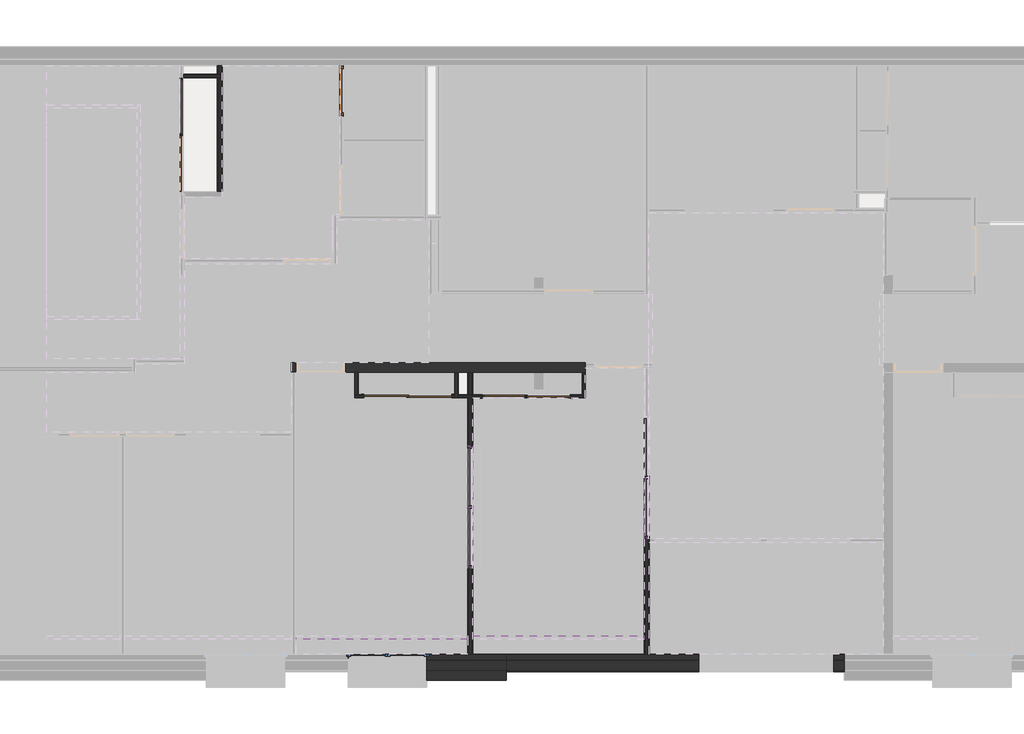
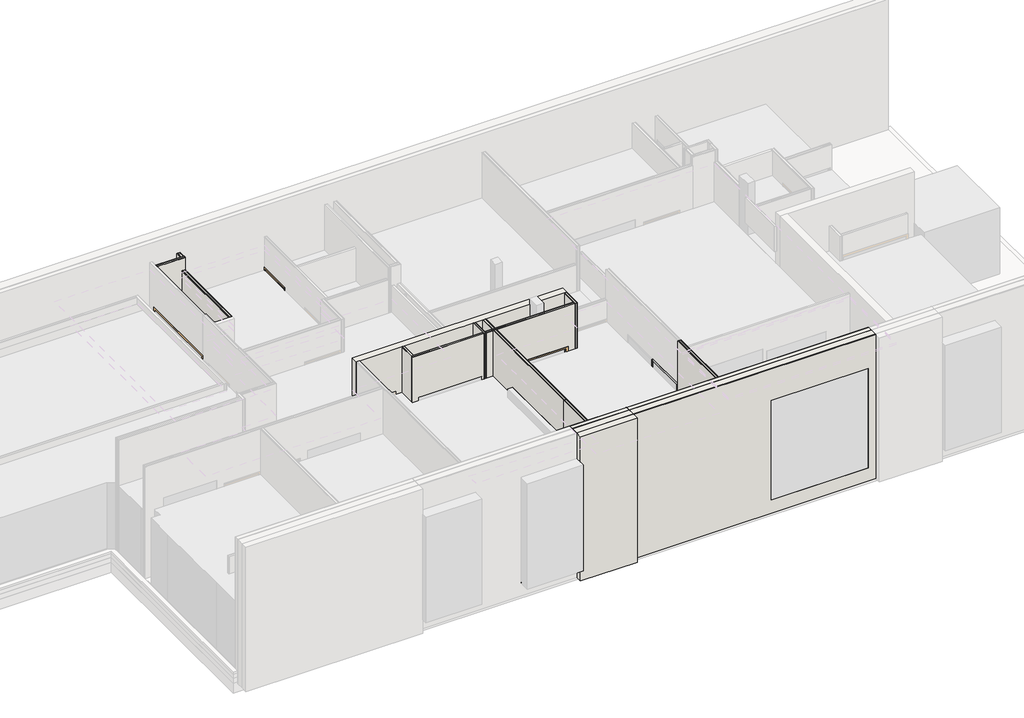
# One storey, part 3 of 8: 20 members, 18 walls, 8 plates, 4 doors, 1 window.
"""IFC4 building model written with IfcOpenShell, lengths in millimetres."""

from ifc_helpers import new_model, si_unit, frame, origin, origin_with_axes, place, context, project, spatial, polyline, outline, extrude, faceted_brep, transform, mapped, element, save
from components import door_b5ea6a65, door_14448009, door_fe86ba10, member_de099058, member_646bbe2c, member_8ddccc91, member_29740ae2, plate_de56a2f1, window_4ef66e8a

model = new_model("IFC4")

# Units and contexts
model_context = context("Model", 3, world=origin())
ifc_project = project(units=[si_unit("LENGTHUNIT", "METRE", prefix="MILLI")], contexts=[model_context])

# Site, building, storey
site = spatial("IfcSite", under=ifc_project)
building = spatial("IfcBuilding", under=site)
storey = spatial("IfcBuildingStorey", under=building, Name="0 Mairie RDC 0.00", Elevation=0.0)

# Doors
placement = place(None, origin())
door_shape = door_b5ea6a65(model_context)
element("IfcDoor", 1, ObjectType="Portes - Placard coulissante - 2 panneaux - Placard coulissante - 2 panneaux 1.80", at=placement, inside=storey, context=model_context, shape_type="MappedRepresentation", body=[
    mapped(door_shape, transform((-13728.6479915, -8682.779598, 0.0), x_axis=(-1.0, 0.0, 0.0), y_axis=(0.0, -1.0, 0.0), z_axis=(0.0, 0.0, 1.0))),
])
element("IfcDoor", 2, ObjectType="Portes - Placard coulissante - 2 panneaux - Placard coulissante - 2 panneaux 1.80", at=placement, inside=storey, context=model_context, shape_type="MappedRepresentation", body=[
    mapped(door_shape, transform((-13113.6818197, -8752.6130855, 0.0), x_axis=(1.0, 0.0, 0.0), y_axis=(0.0, 1.0, 0.0), z_axis=(0.0, 0.0, 1.0))),
])
door_2_shape = door_14448009(model_context)
element("IfcDoor", 3, ObjectType="Portes - Int. Simple - PP (0.89m x 2.04m) (3)", at=placement, inside=storey, context=model_context, shape_type="MappedRepresentation", body=[
    mapped(door_2_shape, transform((-16015.9503686, -1917.7637486, 0.0), x_axis=(0.0, -1.0, 0.0), y_axis=(1.0, 0.0, 0.0), z_axis=(0.0, 0.0, 1.0))),
])
door_3_shape = door_fe86ba10(model_context)
element("IfcDoor", 4, ObjectType="Portes - Placard coulissante - 2 panneaux - Placard coulissante - 2 panneaux 2.32", at=placement, inside=storey, context=model_context, shape_type="MappedRepresentation", body=[
    mapped(door_3_shape, transform((-19282.1823363, -2222.7637486, 0.0), x_axis=(0.0, -1.0, 0.0), y_axis=(1.0, 0.0, 0.0), z_axis=(0.0, 0.0, 1.0))),
])

# Members
member_shape = member_de099058(model_context)
element("IfcMember", 5, ObjectType="Meneaux de murs-rideaux - Meneau rectangulaire - 10 x 25mm", at=placement, inside=storey, context=model_context, shape_type="MappedRepresentation", body=[
    mapped(member_shape, transform((-9754.6455383, -10378.5833837, 1125.0), x_axis=(0.0, 1.0, 0.0), y_axis=(1.0, 0.0, 0.0), z_axis=(0.0, 0.0, -1.0))),
])
element("IfcMember", 6, ObjectType="Meneaux de murs-rideaux - Meneau rectangulaire - 10 x 25mm", at=placement, inside=storey, context=model_context, shape_type="MappedRepresentation", body=[
    mapped(member_shape, transform((-13354.255006, -10978.7649845, 1125.0), x_axis=(0.0, 1.0, 0.0), y_axis=(1.0, 0.0, 0.0), z_axis=(0.0, 0.0, -1.0))),
])
element("IfcMember", 7, ObjectType="Meneaux de murs-rideaux - Meneau rectangulaire - 10 x 25mm (1)", at=placement, inside=storey, context=model_context, shape_type="MappedRepresentation", body=[
    mapped(member_shape, transform((-9754.6455383, -10378.5833837, 50.0), x_axis=(0.0, 1.0, 0.0), y_axis=(1.0, 0.0, 0.0), z_axis=(0.0, 0.0, -1.0))),
])
element("IfcMember", 8, ObjectType="Meneaux de murs-rideaux - Meneau rectangulaire - 10 x 25mm (1)", at=placement, inside=storey, context=model_context, shape_type="MappedRepresentation", body=[
    mapped(member_shape, transform((-13354.255006, -10978.7649845, 50.0), x_axis=(0.0, 1.0, 0.0), y_axis=(1.0, 0.0, 0.0), z_axis=(0.0, 0.0, -1.0))),
])
member_2_shape = member_646bbe2c(model_context)
element("IfcMember", 9, ObjectType="Meneaux de murs-rideaux - Meneau rectangulaire - 10 x 25mm (2)", at=placement, inside=storey, context=model_context, shape_type="MappedRepresentation", body=[
    mapped(member_2_shape, transform((-13354.255006, -9728.7649845, 1125.0), x_axis=(0.0, 1.0, 0.0), y_axis=(1.0, 0.0, 0.0), z_axis=(0.0, 0.0, -1.0))),
])
element("IfcMember", 10, ObjectType="Meneaux de murs-rideaux - Meneau rectangulaire - 10 x 25mm (3)", at=placement, inside=storey, context=model_context, shape_type="MappedRepresentation", body=[
    mapped(member_2_shape, transform((-13354.255006, -9728.7649845, 50.0), x_axis=(0.0, 1.0, 0.0), y_axis=(1.0, 0.0, 0.0), z_axis=(0.0, 0.0, -1.0))),
])
element("IfcMember", 11, ObjectType="Meneaux de murs-rideaux - Meneau rectangulaire - 10 x 25mm (4)", at=placement, inside=storey, context=model_context, shape_type="MappedRepresentation", body=[
    mapped(member_2_shape, transform((-9754.6455383, -11628.5833837, 1125.0), x_axis=(0.0, -1.0, 0.0), y_axis=(1.0, 0.0, 0.0), z_axis=(0.0, 0.0, 1.0))),
])
element("IfcMember", 12, ObjectType="Meneaux de murs-rideaux - Meneau rectangulaire - 10 x 25mm (4)", at=placement, inside=storey, context=model_context, shape_type="MappedRepresentation", body=[
    mapped(member_2_shape, transform((-13354.255006, -12228.7649845, 1125.0), x_axis=(0.0, -1.0, 0.0), y_axis=(1.0, 0.0, 0.0), z_axis=(0.0, 0.0, 1.0))),
])
element("IfcMember", 13, ObjectType="Meneaux de murs-rideaux - Meneau rectangulaire - 10 x 25mm (5)", at=placement, inside=storey, context=model_context, shape_type="MappedRepresentation", body=[
    mapped(member_2_shape, transform((-9754.6455383, -11628.5833837, 2200.0), x_axis=(0.0, -1.0, 0.0), y_axis=(1.0, 0.0, 0.0), z_axis=(0.0, 0.0, 1.0))),
])
element("IfcMember", 14, ObjectType="Meneaux de murs-rideaux - Meneau rectangulaire - 10 x 25mm (5)", at=placement, inside=storey, context=model_context, shape_type="MappedRepresentation", body=[
    mapped(member_2_shape, transform((-13354.255006, -12228.7649845, 2200.0), x_axis=(0.0, -1.0, 0.0), y_axis=(1.0, 0.0, 0.0), z_axis=(0.0, 0.0, 1.0))),
])
member_3_shape = member_8ddccc91(model_context)
element("IfcMember", 15, ObjectType="Meneaux de murs-rideaux - Meneau rectangulaire - 10 x 25mm (6)", at=placement, inside=storey, context=model_context, shape_type="MappedRepresentation", body=[
    mapped(member_3_shape, transform((-9754.6455383, -10403.5833837, 1125.0), x_axis=(0.0, 0.0, 1.0), y_axis=(1.0, 0.0, 0.0), z_axis=(0.0, 1.0, 0.0))),
])
element("IfcMember", 16, ObjectType="Meneaux de murs-rideaux - Meneau rectangulaire - 10 x 25mm (6)", at=placement, inside=storey, context=model_context, shape_type="MappedRepresentation", body=[
    mapped(member_3_shape, transform((-13354.255006, -9778.7649845, 1125.0), x_axis=(0.0, 0.0, 1.0), y_axis=(1.0, 0.0, 0.0), z_axis=(0.0, 1.0, 0.0))),
])
element("IfcMember", 17, ObjectType="Meneaux de murs-rideaux - Meneau rectangulaire - 10 x 25mm (6)", at=placement, inside=storey, context=model_context, shape_type="MappedRepresentation", body=[
    mapped(member_3_shape, transform((-13354.255006, -11003.7649845, 1125.0), x_axis=(0.0, 0.0, 1.0), y_axis=(1.0, 0.0, 0.0), z_axis=(0.0, 1.0, 0.0))),
])
member_4_shape = member_29740ae2(model_context)
element("IfcMember", 18, ObjectType="Meneaux de murs-rideaux - Meneau rectangulaire - 10 x 25mm (7)", at=placement, inside=storey, context=model_context, shape_type="MappedRepresentation", body=[
    mapped(member_4_shape, transform((-9754.6455383, -10378.5833837, 0.0), x_axis=(0.0, 0.0, -1.0), y_axis=(1.0, 0.0, 0.0), z_axis=(0.0, -1.0, 0.0))),
])
element("IfcMember", 19, ObjectType="Meneaux de murs-rideaux - Meneau rectangulaire - 10 x 25mm (7)", at=placement, inside=storey, context=model_context, shape_type="MappedRepresentation", body=[
    mapped(member_4_shape, transform((-13354.255006, -10978.7649845, 0.0), x_axis=(0.0, 0.0, -1.0), y_axis=(1.0, 0.0, 0.0), z_axis=(0.0, -1.0, 0.0))),
])
element("IfcMember", 20, ObjectType="Meneaux de murs-rideaux - Meneau rectangulaire - 10 x 25mm (8)", at=placement, inside=storey, context=model_context, shape_type="MappedRepresentation", body=[
    mapped(member_4_shape, transform((-9754.6455383, -11628.5833837, 0.0), x_axis=(0.0, 0.0, -1.0), y_axis=(1.0, 0.0, 0.0), z_axis=(0.0, -1.0, 0.0))),
])
element("IfcMember", 21, ObjectType="Meneaux de murs-rideaux - Meneau rectangulaire - 10 x 25mm (8)", at=placement, inside=storey, context=model_context, shape_type="MappedRepresentation", body=[
    mapped(member_4_shape, transform((-13354.255006, -12228.7649845, 0.0), x_axis=(0.0, 0.0, -1.0), y_axis=(1.0, 0.0, 0.0), z_axis=(0.0, -1.0, 0.0))),
])
element("IfcMember", 22, ObjectType="Meneaux de murs-rideaux - Meneau rectangulaire - 10 x 25mm (9)", at=placement, inside=storey, context=model_context, shape_type="MappedRepresentation", body=[
    mapped(member_4_shape, transform((-9754.6455383, -10378.5833837, 2250.0), x_axis=(0.0, 0.0, 1.0), y_axis=(1.0, 0.0, 0.0), z_axis=(0.0, 1.0, 0.0))),
])
element("IfcMember", 23, ObjectType="Meneaux de murs-rideaux - Meneau rectangulaire - 10 x 25mm (9)", at=placement, inside=storey, context=model_context, shape_type="MappedRepresentation", body=[
    mapped(member_4_shape, transform((-13354.255006, -10978.7649845, 2250.0), x_axis=(0.0, 0.0, 1.0), y_axis=(1.0, 0.0, 0.0), z_axis=(0.0, 1.0, 0.0))),
])
element("IfcMember", 24, ObjectType="Meneaux de murs-rideaux - Meneau rectangulaire - 10 x 25mm (10)", at=placement, inside=storey, context=model_context, shape_type="MappedRepresentation", body=[
    mapped(member_4_shape, transform((-13354.255006, -9728.7649845, 2250.0), x_axis=(0.0, 0.0, 1.0), y_axis=(1.0, 0.0, 0.0), z_axis=(0.0, 1.0, 0.0))),
])

# Plates
plate_shape = plate_de56a2f1(model_context)
element("IfcPlate", 25, ObjectType="Panneaux de murs-rideaux - Panneau système - Vitré", at=placement, inside=storey, context=model_context, shape_type="MappedRepresentation", body=[
    mapped(plate_shape, transform((-9759.6455383, -11578.5833837, 50.0), x_axis=(0.0, 1.0, 0.0), y_axis=(-1.0, 0.0, 0.0), z_axis=(0.0, 0.0, 1.0))),
])
element("IfcPlate", 26, ObjectType="Panneaux de murs-rideaux - Panneau système - Vitré", at=placement, inside=storey, context=model_context, shape_type="MappedRepresentation", body=[
    mapped(plate_shape, transform((-9759.6455383, -10353.5833837, 50.0), x_axis=(0.0, 1.0, 0.0), y_axis=(-1.0, 0.0, 0.0), z_axis=(0.0, 0.0, 1.0))),
])
element("IfcPlate", 27, ObjectType="Panneaux de murs-rideaux - Panneau système - Vitré", at=placement, inside=storey, context=model_context, shape_type="MappedRepresentation", body=[
    mapped(plate_shape, transform((-9759.6455383, -11578.5833837, 1150.0), x_axis=(0.0, 1.0, 0.0), y_axis=(-1.0, 0.0, 0.0), z_axis=(0.0, 0.0, 1.0))),
])
element("IfcPlate", 28, ObjectType="Panneaux de murs-rideaux - Panneau système - Vitré", at=placement, inside=storey, context=model_context, shape_type="MappedRepresentation", body=[
    mapped(plate_shape, transform((-9759.6455383, -10353.5833837, 1150.0), x_axis=(0.0, 1.0, 0.0), y_axis=(-1.0, 0.0, 0.0), z_axis=(0.0, 0.0, 1.0))),
])
element("IfcPlate", 29, ObjectType="Panneaux de murs-rideaux - Panneau système - Vitré", at=placement, inside=storey, context=model_context, shape_type="MappedRepresentation", body=[
    mapped(plate_shape, transform((-13359.255006, -12178.7649845, 50.0), x_axis=(0.0, 1.0, 0.0), y_axis=(-1.0, 0.0, 0.0), z_axis=(0.0, 0.0, 1.0))),
])
element("IfcPlate", 30, ObjectType="Panneaux de murs-rideaux - Panneau système - Vitré", at=placement, inside=storey, context=model_context, shape_type="MappedRepresentation", body=[
    mapped(plate_shape, transform((-13359.255006, -10953.7649845, 50.0), x_axis=(0.0, 1.0, 0.0), y_axis=(-1.0, 0.0, 0.0), z_axis=(0.0, 0.0, 1.0))),
])
element("IfcPlate", 31, ObjectType="Panneaux de murs-rideaux - Panneau système - Vitré", at=placement, inside=storey, context=model_context, shape_type="MappedRepresentation", body=[
    mapped(plate_shape, transform((-13359.255006, -12178.7649845, 1150.0), x_axis=(0.0, 1.0, 0.0), y_axis=(-1.0, 0.0, 0.0), z_axis=(0.0, 0.0, 1.0))),
])
element("IfcPlate", 32, ObjectType="Panneaux de murs-rideaux - Panneau système - Vitré", at=placement, inside=storey, context=model_context, shape_type="MappedRepresentation", body=[
    mapped(plate_shape, transform((-13359.255006, -10953.7649845, 1150.0), x_axis=(0.0, 1.0, 0.0), y_axis=(-1.0, 0.0, 0.0), z_axis=(0.0, 0.0, 1.0))),
])

# Walls
element("IfcWall", 33, ObjectType="Murs - Mur de base - A cloison placostil 98 sèche", at=placement, inside=storey, context=model_context, shape_type="SweptSolid", body=[
    extrude(outline(polyline([(-9804.6455383, -13978.5662223), (-9804.6455383, -11628.5833837), (-9792.1455383, -11628.5833837), (-9792.1455383, -13978.5662223), (-9804.6455383, -13978.5662223)])), origin_with_axes(), (0.0, 0.0, 1.0), 3540.0),
    extrude(outline(polyline([(-9792.1455383, -13978.5662223), (-9792.1455383, -11628.5833837), (-9779.6455383, -11628.5833837), (-9779.6455383, -13978.5662223), (-9792.1455383, -13978.5662223)])), origin_with_axes(), (0.0, 0.0, 1.0), 3540.0),
    extrude(outline(polyline([(-9779.6455383, -13978.5662223), (-9779.6455383, -11628.5833837), (-9729.6455383, -11628.5833837), (-9729.6455383, -13978.5662223), (-9779.6455383, -13978.5662223)])), origin_with_axes(), (0.0, 0.0, 1.0), 3540.0),
    extrude(outline(polyline([(-9729.6455383, -13978.5662223), (-9729.6455383, -11628.5833837), (-9717.1455383, -11628.5833837), (-9717.1455383, -13978.5662223), (-9729.6455383, -13978.5662223)])), origin_with_axes(), (0.0, 0.0, 1.0), 3540.0),
    extrude(outline(polyline([(-9717.1455383, -13978.5662223), (-9717.1455383, -11628.5833837), (-9704.6455383, -11628.5833837), (-9704.6455383, -13978.5662223), (-9717.1455383, -13978.5662223)])), origin_with_axes(), (0.0, 0.0, 1.0), 3540.0),
])
element("IfcWall", 34, ObjectType="Murs - Mur de base - A cloison placostil 72 sèche", at=placement, inside=storey, context=model_context, shape_type="SweptSolid", body=[
    extrude(outline(polyline([(-11073.1086334, -8752.6130855), (-11073.1086334, -8232.7637435), (-11063.1086334, -8232.7637435), (-11063.1086334, -8752.6130855), (-11073.1086334, -8752.6130855)])), origin_with_axes(), (0.0, 0.0, 1.0), 3370.0),
    extrude(outline(polyline([(-11063.1086334, -8752.6130855), (-11063.1086334, -8232.7637435), (-11013.1086334, -8232.7637435), (-11013.1086334, -8752.6130855), (-11063.1086334, -8752.6130855)])), origin_with_axes(), (0.0, 0.0, 1.0), 3370.0),
    extrude(outline(polyline([(-11013.1086334, -8752.6130855), (-11013.1086334, -8232.7637435), (-11003.1086334, -8232.7637435), (-11003.1086334, -8752.6130855), (-11013.1086334, -8752.6130855)])), origin_with_axes(), (0.0, 0.0, 1.0), 3370.0),
])
element("IfcWall", 35, ObjectType="Murs - Mur de base - A cloison placostil 72 sèche", at=placement, inside=storey, context=model_context, shape_type="SweptSolid", body=[
    extrude(outline(polyline([(3370.0, -11073.1086334), (3370.0, -13304.255006), (0.0, -13304.255006), (0.0, -13113.6818197), (2100.0, -13113.6818197), (2100.0, -11313.6818197), (0.0, -11313.6818197), (0.0, -11073.1086334), (3370.0, -11073.1086334)])), frame((0.0, -8692.6130855, 0.0), z_axis=(0.0, 1.0, 0.0), x_axis=(0.0, 0.0, 1.0)), (0.0, 0.0, 1.0), 10.0),
    extrude(outline(polyline([(3370.0, -11073.1086334), (3370.0, -13304.255006), (0.0, -13304.255006), (0.0, -13113.6818197), (2100.0, -13113.6818197), (2100.0, -11313.6818197), (0.0, -11313.6818197), (0.0, -11073.1086334), (3370.0, -11073.1086334)])), frame((0.0, -8742.6130855, 0.0), z_axis=(0.0, 1.0, 0.0), x_axis=(0.0, 0.0, 1.0)), (0.0, 0.0, 1.0), 50.0),
    extrude(outline(polyline([(3370.0, -11073.1086334), (3370.0, -13304.255006), (0.0, -13304.255006), (0.0, -13113.6818197), (2100.0, -13113.6818197), (2100.0, -11313.6818197), (0.0, -11313.6818197), (0.0, -11073.1086334), (3370.0, -11073.1086334)])), frame((0.0, -8752.6130855, 0.0), z_axis=(0.0, 1.0, 0.0), x_axis=(0.0, 0.0, 1.0)), (0.0, 0.0, 1.0), 10.0),
])
element("IfcWall", 36, ObjectType="Murs - Mur de base - A Enduit 2 + Béton 20 + vide 1 +  Doublage 13", at=placement, inside=storey, context=model_context, shape_type="SweptSolid", body=[
    extrude(outline(polyline([(3950.0, -5718.4606208), (3950.0, -12618.5500393), (-400.0, -12618.5500393), (-400.0, -5718.4606208), (3950.0, -5718.4606208)]), holes=[polyline([(3000.0, -5934.6455383), (0.0, -5934.6455383), (0.0, -8694.6455383), (3000.0, -8694.6455383), (3000.0, -5934.6455383)])]), frame((0.0, -14338.5662223, 0.0), z_axis=(0.0, 1.0, 0.0), x_axis=(0.0, 0.0, 1.0)), (0.0, 0.0, 1.0), 20.0),
    extrude(outline(polyline([(3950.0, -5718.4606208), (3950.0, -12618.5500393), (-400.0, -12618.5500393), (-400.0, -5718.4606208), (3950.0, -5718.4606208)]), holes=[polyline([(3000.0, -5934.6455383), (0.0, -5934.6455383), (0.0, -8694.6455383), (3000.0, -8694.6455383), (3000.0, -5934.6455383)])]), frame((0.0, -14318.5662223, 0.0), z_axis=(0.0, 1.0, 0.0), x_axis=(0.0, 0.0, 1.0)), (0.0, 0.0, 1.0), 200.0),
    extrude(outline(polyline([(3950.0, -5718.4606208), (3950.0, -12618.5500393), (-400.0, -12618.5500393), (-400.0, -5718.4606208), (3950.0, -5718.4606208)]), holes=[polyline([(3000.0, -5934.6455383), (0.0, -5934.6455383), (0.0, -8694.6455383), (3000.0, -8694.6455383), (3000.0, -5934.6455383)])]), frame((0.0, -14118.5662223, 0.0), z_axis=(0.0, 1.0, 0.0), x_axis=(0.0, 0.0, 1.0)), (0.0, 0.0, 1.0), 10.0),
    extrude(outline(polyline([(3950.0, -5718.4606208), (3950.0, -12618.5500393), (-400.0, -12618.5500393), (-400.0, -5718.4606208), (3950.0, -5718.4606208)]), holes=[polyline([(3000.0, -5934.6455383), (0.0, -5934.6455383), (0.0, -8694.6455383), (3000.0, -8694.6455383), (3000.0, -5934.6455383)])]), frame((0.0, -14108.5662223, 0.0), z_axis=(0.0, 1.0, 0.0), x_axis=(0.0, 0.0, 1.0)), (0.0, 0.0, 1.0), 120.0),
    extrude(outline(polyline([(3950.0, -5718.4606208), (3950.0, -12618.5500393), (-400.0, -12618.5500393), (-400.0, -5718.4606208), (3950.0, -5718.4606208)]), holes=[polyline([(3000.0, -5934.6455383), (0.0, -5934.6455383), (0.0, -8694.6455383), (3000.0, -8694.6455383), (3000.0, -5934.6455383)])]), frame((0.0, -13988.5662223, 0.0), z_axis=(0.0, 1.0, 0.0), x_axis=(0.0, 0.0, 1.0)), (0.0, 0.0, 1.0), 10.0),
])
element("IfcWall", 37, ObjectType="Murs - Mur de base - A Ext. Voile BA 20", at=placement, inside=storey, context=model_context, shape_type="SweptSolid", body=[
    extrude(outline(polyline([(3370.0, -11003.1086334), (3370.0, -17005.446161), (-180.0, -17005.446161), (-180.0, -11003.1086334), (3370.0, -11003.1086334)]), holes=[polyline([(2075.0, -15905.446161), (0.0, -15905.446161), (0.0, -16905.446161), (2075.0, -16905.446161), (2075.0, -15905.446161)])]), frame((0.0, -8232.7637435, 0.0), z_axis=(0.0, 1.0, 0.0), x_axis=(0.0, 0.0, 1.0)), (0.0, 0.0, 1.0), 200.0),
])
element("IfcWall", 38, ObjectType="Murs - Mur de base - A Parement pierre 19 + Béton 20 + vide 1 +   Doublage 14", at=placement, inside=storey, context=model_context, shape_type="SolidModel", body=[
    faceted_brep([(-14238.6355893, -14508.5662223, 3950.0), (-12618.5500393, -14508.5662223, 3950.0), (-12618.5500393, -14318.5662223, 3950.0), (-14238.6355893, -14318.5662223, 3950.0), (-14238.6355893, -14508.5662223, -400.0), (-14238.6355893, -14318.5662223, -400.0), (-12618.5500393, -14318.5662223, -400.0), (-12618.5500393, -14508.5662223, -400.0), (-14238.6355893, -14508.5662223, 3185.0), (-14238.6355893, -14508.5662223, 0.0), (-14238.6355893, -14318.5662223, 7.6728988), (-14238.6355893, -14318.5662223, 3185.0)], [[[0, 1, 2, 3]], [[4, 5, 6, 7]], [[1, 0, 8, 9, 4, 7]], [[2, 1, 7, 6]], [[3, 2, 6, 5, 10, 11]], [[0, 3, 11, 10, 5, 4, 9, 8]]]),
    faceted_brep([(-14238.6355893, -14318.5662223, 3950.0), (-12618.5500393, -14318.5662223, 3950.0), (-12618.5500393, -14118.5662223, 3950.0), (-14238.6355893, -14118.5662223, 3950.0), (-14238.6355893, -14318.5662223, -400.0), (-14238.6355893, -14118.5662223, -400.0), (-12618.5500393, -14118.5662223, -400.0), (-12618.5500393, -14318.5662223, -400.0), (-14238.6355893, -14318.5662223, 3185.0), (-14238.6355893, -14318.5662223, 7.6728988), (-14238.6355893, -14118.5662223, 28.6937459), (-14238.6355893, -14118.5662223, 3185.0)], [[[0, 1, 2, 3]], [[4, 5, 6, 7]], [[1, 0, 8, 9, 4, 7]], [[2, 1, 7, 6]], [[3, 2, 6, 5, 10, 11]], [[0, 3, 11, 10, 5, 4, 9, 8]]]),
    faceted_brep([(-14238.6355893, -14118.5662223, 3950.0), (-12618.5500393, -14118.5662223, 3950.0), (-12618.5500393, -14108.5662223, 3950.0), (-14238.6355893, -14108.5662223, 3950.0), (-14238.6355893, -14118.5662223, -400.0), (-14238.6355893, -14108.5662223, -400.0), (-12618.5500393, -14108.5662223, -400.0), (-12618.5500393, -14118.5662223, -400.0), (-14238.6355893, -14118.5662223, 3185.0), (-14238.6355893, -14118.5662223, 28.6937459), (-14238.6355893, -14108.5662223, 29.7447882), (-14238.6355893, -14108.5662223, 3185.0)], [[[0, 1, 2, 3]], [[4, 5, 6, 7]], [[1, 0, 8, 9, 4, 7]], [[2, 1, 7, 6]], [[3, 2, 6, 5, 10, 11]], [[0, 3, 11, 10, 5, 4, 9, 8]]]),
    faceted_brep([(-14238.6355893, -14108.5662223, 3950.0), (-12618.5500393, -14108.5662223, 3950.0), (-12618.5500393, -13988.5662223, 3950.0), (-14238.6355893, -13988.5662223, 3950.0), (-14238.6355893, -14108.5662223, -400.0), (-14238.6355893, -13988.5662223, -400.0), (-12618.5500393, -13988.5662223, -400.0), (-12618.5500393, -14108.5662223, -400.0), (-14238.6355893, -14108.5662223, 3185.0), (-14238.6355893, -14108.5662223, 29.7447882), (-14238.6355893, -13988.5662223, 35.0), (-14188.6355893, -13988.5662223, 35.0), (-14188.6355893, -13988.5662223, 3235.0), (-14238.6355893, -13988.5662223, 3235.0), (-14238.6355893, -14028.5662223, 3235.0), (-14238.6355893, -14028.5662223, 3195.0), (-14238.6355893, -14078.5662223, 3195.0), (-14238.6355893, -14078.5662223, 3185.0), (-14238.6355893, -14078.5662223, 35.0), (-14238.6355893, -14058.5662223, 35.0), (-14228.6355893, -14028.5662223, 35.0), (-14188.6355893, -14028.5662223, 35.0), (-14228.6355893, -14078.5662223, 35.0), (-14188.6355893, -14028.5662223, 3235.0), (-14228.6355893, -14028.5662223, 3195.0), (-14228.6355893, -14078.5662223, 3195.0)], [[[0, 1, 2, 3]], [[4, 5, 6, 7]], [[1, 0, 8, 9, 4, 7]], [[2, 1, 7, 6]], [[3, 2, 6, 5, 10, 11, 12, 13]], [[0, 3, 13, 14, 15, 16, 17, 18, 19, 10, 5, 4, 9, 8]], [[20, 21, 11, 10, 19, 18, 22]], [[21, 23, 12, 11]], [[21, 20, 24, 15, 14, 23]], [[20, 22, 25, 24]], [[22, 18, 17, 16, 25]], [[12, 23, 14, 13]], [[24, 25, 16, 15]]]),
    extrude(outline(polyline([(3950.0, -12618.5500393), (3950.0, -14238.6355893), (3235.0, -14238.6355893), (3235.0, -14188.6355893), (35.0, -14188.6355893), (35.0, -14238.6355893), (-400.0, -14238.6355893), (-400.0, -12618.5500393), (3950.0, -12618.5500393)])), frame((0.0, -13988.5662223, 0.0), z_axis=(0.0, 1.0, 0.0), x_axis=(0.0, 0.0, 1.0)), (0.0, 0.0, 1.0), 10.0),
])
element("IfcWall", 39, ObjectType="Murs - Mur de base - A cloison placostil 98 sèche", at=placement, inside=storey, context=model_context, shape_type="Brep", body=[
    faceted_brep([(-13404.255006, -12228.7534329, 3370.0), (-13391.755006, -12228.7534329, 3370.0), (-13391.755006, -8752.7765879, 3370.0), (-13404.255006, -8752.7765879, 3370.0), (-13404.255006, -8752.7765879, 0.0), (-13391.755006, -8752.7765879, 0.0), (-13391.755006, -9728.7649845, 0.0), (-13404.255006, -9728.7649845, 0.0), (-13404.255006, -12228.7534329, 2250.0), (-13391.755006, -12228.7534329, 2250.0), (-13391.755006, -9728.7649845, 2250.0), (-13391.755006, -9728.7649845, 2080.0), (-13404.255006, -9728.7649845, 2080.0), (-13404.255006, -9728.7649845, 2250.0)], [[[0, 1, 2, 3]], [[4, 5, 6, 7]], [[1, 0, 8, 9]], [[2, 1, 9, 10, 11, 6, 5]], [[3, 2, 5, 4]], [[0, 3, 4, 7, 12, 13, 8]], [[9, 8, 13, 10]], [[7, 6, 11, 10, 13, 12]]]),
    faceted_brep([(-13391.755006, -12228.7534329, 3370.0), (-13379.255006, -12228.7534329, 3370.0), (-13379.255006, -8752.7765879, 3370.0), (-13391.755006, -8752.7765879, 3370.0), (-13391.755006, -8752.7765879, 0.0), (-13379.255006, -8752.7765879, 0.0), (-13379.255006, -9728.7649845, 0.0), (-13391.755006, -9728.7649845, 0.0), (-13391.755006, -12228.7534329, 2250.0), (-13379.255006, -12228.7534329, 2250.0), (-13379.255006, -9728.7649845, 2250.0), (-13379.255006, -9728.7649845, 2080.0), (-13391.755006, -9728.7649845, 2080.0), (-13391.755006, -9728.7649845, 2250.0)], [[[0, 1, 2, 3]], [[4, 5, 6, 7]], [[1, 0, 8, 9]], [[2, 1, 9, 10, 11, 6, 5]], [[3, 2, 5, 4]], [[0, 3, 4, 7, 12, 13, 8]], [[9, 8, 13, 10]], [[7, 6, 11, 10, 13, 12]]]),
    faceted_brep([(-13379.255006, -12228.7534329, 3370.0), (-13329.255006, -12228.7534329, 3370.0), (-13329.255006, -8752.7765879, 3370.0), (-13379.255006, -8752.7765879, 3370.0), (-13379.255006, -8752.7765879, 0.0), (-13329.255006, -8752.7765879, 0.0), (-13329.255006, -9728.7649845, 0.0), (-13379.255006, -9728.7649845, 0.0), (-13379.255006, -12228.7534329, 2250.0), (-13329.255006, -12228.7534329, 2250.0), (-13329.255006, -9728.7649845, 2250.0), (-13329.255006, -9728.7649845, 2080.0), (-13379.255006, -9728.7649845, 2080.0), (-13379.255006, -9728.7649845, 2250.0)], [[[0, 1, 2, 3]], [[4, 5, 6, 7]], [[1, 0, 8, 9]], [[2, 1, 9, 10, 11, 6, 5]], [[3, 2, 5, 4]], [[0, 3, 4, 7, 12, 13, 8]], [[9, 8, 13, 10]], [[7, 6, 11, 10, 13, 12]]]),
    faceted_brep([(-13329.255006, -12228.7534329, 3370.0), (-13316.755006, -12228.7534329, 3370.0), (-13316.755006, -8752.7765879, 3370.0), (-13329.255006, -8752.7765879, 3370.0), (-13329.255006, -8752.7765879, 0.0), (-13316.755006, -8752.7765879, 0.0), (-13316.755006, -9728.7649845, 0.0), (-13329.255006, -9728.7649845, 0.0), (-13329.255006, -12228.7534329, 2250.0), (-13316.755006, -12228.7534329, 2250.0), (-13316.755006, -9728.7649845, 2250.0), (-13316.755006, -9728.7649845, 2080.0), (-13329.255006, -9728.7649845, 2080.0), (-13329.255006, -9728.7649845, 2250.0)], [[[0, 1, 2, 3]], [[4, 5, 6, 7]], [[1, 0, 8, 9]], [[2, 1, 9, 10, 11, 6, 5]], [[3, 2, 5, 4]], [[0, 3, 4, 7, 12, 13, 8]], [[9, 8, 13, 10]], [[7, 6, 11, 10, 13, 12]]]),
    faceted_brep([(-13316.755006, -12228.7534329, 3370.0), (-13304.255006, -12228.7534329, 3370.0), (-13304.255006, -8752.7765879, 3370.0), (-13316.755006, -8752.7765879, 3370.0), (-13316.755006, -8752.7765879, 0.0), (-13304.255006, -8752.7765879, 0.0), (-13304.255006, -9728.7649845, 0.0), (-13316.755006, -9728.7649845, 0.0), (-13316.755006, -12228.7534329, 2250.0), (-13304.255006, -12228.7534329, 2250.0), (-13304.255006, -9728.7649845, 2250.0), (-13304.255006, -9728.7649845, 2080.0), (-13316.755006, -9728.7649845, 2080.0), (-13316.755006, -9728.7649845, 2250.0)], [[[0, 1, 2, 3]], [[4, 5, 6, 7]], [[1, 0, 8, 9]], [[2, 1, 9, 10, 11, 6, 5]], [[3, 2, 5, 4]], [[0, 3, 4, 7, 12, 13, 8]], [[9, 8, 13, 10]], [[7, 6, 11, 10, 13, 12]]]),
])
element("IfcWall", 40, ObjectType="Murs - Mur de base - A cloison placostil 98 sèche", at=placement, inside=storey, context=model_context, shape_type="SweptSolid", body=[
    extrude(outline(polyline([(-13404.255006, -13978.5662223), (-13404.255006, -12228.7534329), (-13391.755006, -12228.7534329), (-13391.755006, -13978.5662223), (-13404.255006, -13978.5662223)])), origin_with_axes(), (0.0, 0.0, 1.0), 3370.0),
    extrude(outline(polyline([(-13391.755006, -13978.5662223), (-13391.755006, -12228.7534329), (-13379.255006, -12228.7534329), (-13379.255006, -13978.5662223), (-13391.755006, -13978.5662223)])), origin_with_axes(), (0.0, 0.0, 1.0), 3370.0),
    extrude(outline(polyline([(-13379.255006, -13978.5662223), (-13379.255006, -12228.7534329), (-13329.255006, -12228.7534329), (-13329.255006, -13978.5662223), (-13379.255006, -13978.5662223)])), origin_with_axes(), (0.0, 0.0, 1.0), 3370.0),
    extrude(outline(polyline([(-13329.255006, -13978.5662223), (-13329.255006, -12228.7534329), (-13316.755006, -12228.7534329), (-13316.755006, -13978.5662223), (-13329.255006, -13978.5662223)])), origin_with_axes(), (0.0, 0.0, 1.0), 3370.0),
    extrude(outline(polyline([(-13316.755006, -13978.5662223), (-13316.755006, -12228.7534329), (-13304.255006, -12228.7534329), (-13304.255006, -13978.5662223), (-13316.755006, -13978.5662223)])), origin_with_axes(), (0.0, 0.0, 1.0), 3370.0),
])
element("IfcWall", 41, ObjectType="Murs - Mur de base - A cloison placostil 72 sèche", at=placement, inside=storey, context=model_context, shape_type="SweptSolid", body=[
    extrude(outline(polyline([(3370.0, -13671.849822), (3370.0, -15705.446161), (0.0, -15705.446161), (0.0, -15528.6479915), (2100.0, -15528.6479915), (2100.0, -13728.6479915), (0.0, -13728.6479915), (0.0, -13671.849822), (3370.0, -13671.849822)])), frame((0.0, -8692.779598, 0.0), z_axis=(0.0, 1.0, 0.0), x_axis=(0.0, 0.0, 1.0)), (0.0, 0.0, 1.0), 10.0),
    extrude(outline(polyline([(3370.0, -13671.849822), (3370.0, -15705.446161), (0.0, -15705.446161), (0.0, -15528.6479915), (2100.0, -15528.6479915), (2100.0, -13728.6479915), (0.0, -13728.6479915), (0.0, -13671.849822), (3370.0, -13671.849822)])), frame((0.0, -8742.779598, 0.0), z_axis=(0.0, 1.0, 0.0), x_axis=(0.0, 0.0, 1.0)), (0.0, 0.0, 1.0), 50.0),
    extrude(outline(polyline([(3370.0, -13671.849822), (3370.0, -15705.446161), (0.0, -15705.446161), (0.0, -15528.6479915), (2100.0, -15528.6479915), (2100.0, -13728.6479915), (0.0, -13728.6479915), (0.0, -13671.849822), (3370.0, -13671.849822)])), frame((0.0, -8752.779598, 0.0), z_axis=(0.0, 1.0, 0.0), x_axis=(0.0, 0.0, 1.0)), (0.0, 0.0, 1.0), 10.0),
])
element("IfcWall", 42, ObjectType="Murs - Mur de base - A cloison placostil 72 sèche", at=placement, inside=storey, context=model_context, shape_type="SweptSolid", body=[
    extrude(outline(polyline([(-15635.446161, -8232.7637435), (-15635.446161, -8682.779598), (-15645.446161, -8682.779598), (-15645.446161, -8232.7637435), (-15635.446161, -8232.7637435)])), origin_with_axes(), (0.0, 0.0, 1.0), 3370.0),
    extrude(outline(polyline([(-15645.446161, -8232.7637435), (-15645.446161, -8682.779598), (-15695.446161, -8682.779598), (-15695.446161, -8232.7637435), (-15645.446161, -8232.7637435)])), origin_with_axes(), (0.0, 0.0, 1.0), 3370.0),
    extrude(outline(polyline([(-15695.446161, -8232.7637435), (-15695.446161, -8682.779598), (-15705.446161, -8682.779598), (-15705.446161, -8232.7637435), (-15695.446161, -8232.7637435)])), origin_with_axes(), (0.0, 0.0, 1.0), 3370.0),
])
element("IfcWall", 43, ObjectType="Murs - Mur de base - A cloison placostil 72 sèche", at=placement, inside=storey, context=model_context, shape_type="SweptSolid", body=[
    extrude(outline(polyline([(-18412.1823363, -2152.7637486), (-18412.1823363, -2162.7637486), (-19212.1823363, -2162.7637486), (-19212.1823363, -2152.7637486), (-18412.1823363, -2152.7637486)])), origin_with_axes(), (0.0, 0.0, 1.0), 3370.0),
    extrude(outline(polyline([(-18412.1823363, -2162.7637486), (-18412.1823363, -2212.7637486), (-19212.1823363, -2212.7637486), (-19212.1823363, -2162.7637486), (-18412.1823363, -2162.7637486)])), origin_with_axes(), (0.0, 0.0, 1.0), 3370.0),
    extrude(outline(polyline([(-18412.1823363, -2212.7637486), (-18412.1823363, -2222.7637486), (-19212.1823363, -2222.7637486), (-19212.1823363, -2212.7637486), (-18412.1823363, -2212.7637486)])), origin_with_axes(), (0.0, 0.0, 1.0), 3370.0),
])
element("IfcWall", 44, ObjectType="Murs - Mur de base - A cloison placostil 72 sèche", at=placement, inside=storey, context=model_context, shape_type="SweptSolid", body=[
    extrude(outline(polyline([(-13601.849822, -8232.7637435), (-13601.849822, -8752.7765879), (-13611.849822, -8752.7765879), (-13611.849822, -8232.7637435), (-13601.849822, -8232.7637435)])), origin_with_axes(), (0.0, 0.0, 1.0), 3370.0),
    extrude(outline(polyline([(-13611.849822, -8232.7637435), (-13611.849822, -8752.7765879), (-13661.849822, -8752.7765879), (-13661.849822, -8232.7637435), (-13611.849822, -8232.7637435)])), origin_with_axes(), (0.0, 0.0, 1.0), 3370.0),
    extrude(outline(polyline([(-13661.849822, -8232.7637435), (-13661.849822, -8752.7765879), (-13671.849822, -8752.7765879), (-13671.849822, -8232.7637435), (-13661.849822, -8232.7637435)])), origin_with_axes(), (0.0, 0.0, 1.0), 3370.0),
])
element("IfcWall", 45, ObjectType="Murs - Mur de base - A cloison placostil 72 sèche", at=placement, inside=storey, context=model_context, shape_type="SweptSolid", body=[
    extrude(outline(polyline([(-13601.849822, -8682.7765879), (-13304.255006, -8682.7765879), (-13304.255006, -8692.7765879), (-13601.849822, -8692.7765879), (-13601.849822, -8682.7765879)])), origin_with_axes(), (0.0, 0.0, 1.0), 3370.0),
    extrude(outline(polyline([(-13601.849822, -8692.7765879), (-13304.255006, -8692.7765879), (-13304.255006, -8742.7765879), (-13601.849822, -8742.7765879), (-13601.849822, -8692.7765879)])), origin_with_axes(), (0.0, 0.0, 1.0), 3370.0),
    extrude(outline(polyline([(-13601.849822, -8742.7765879), (-13304.255006, -8742.7765879), (-13304.255006, -8752.7765879), (-13601.849822, -8752.7765879), (-13601.849822, -8742.7765879)])), origin_with_axes(), (0.0, 0.0, 1.0), 3370.0),
])
element("IfcWall", 46, ObjectType="Murs - Mur de base - A cloison placostil 98 sèche", at=placement, inside=storey, context=model_context, shape_type="SweptSolid", body=[
    extrude(outline(polyline([(-13404.255006, -8232.7637435), (-13391.755006, -8232.7637435), (-13391.755006, -8682.7765879), (-13404.255006, -8682.7765879), (-13404.255006, -8232.7637435)])), origin_with_axes(), (0.0, 0.0, 1.0), 3370.0),
    extrude(outline(polyline([(-13391.755006, -8232.7637435), (-13379.255006, -8232.7637435), (-13379.255006, -8682.7765879), (-13391.755006, -8682.7765879), (-13391.755006, -8232.7637435)])), origin_with_axes(), (0.0, 0.0, 1.0), 3370.0),
    extrude(outline(polyline([(-13379.255006, -8232.7637435), (-13329.255006, -8232.7637435), (-13329.255006, -8682.7765879), (-13379.255006, -8682.7765879), (-13379.255006, -8232.7637435)])), origin_with_axes(), (0.0, 0.0, 1.0), 3370.0),
    extrude(outline(polyline([(-13329.255006, -8232.7637435), (-13316.755006, -8232.7637435), (-13316.755006, -8682.7765879), (-13329.255006, -8682.7765879), (-13329.255006, -8232.7637435)])), origin_with_axes(), (0.0, 0.0, 1.0), 3370.0),
    extrude(outline(polyline([(-13316.755006, -8232.7637435), (-13304.255006, -8232.7637435), (-13304.255006, -8682.7765879), (-13316.755006, -8682.7765879), (-13316.755006, -8232.7637435)])), origin_with_axes(), (0.0, 0.0, 1.0), 3370.0),
])
element("IfcWall", 47, ObjectType="Murs - Mur de base - A cloison placostil 98 sèche", at=placement, inside=storey, context=model_context, shape_type="SweptSolid", body=[
    extrude(outline(polyline([(-18512.1823363, -2152.7637486), (-18512.1823363, -1972.7637486), (-18499.6823363, -1972.7637486), (-18499.6823363, -2152.7637486), (-18512.1823363, -2152.7637486)])), origin_with_axes(), (0.0, 0.0, 1.0), 3370.0),
    extrude(outline(polyline([(-18499.6823363, -2152.7637486), (-18499.6823363, -1972.7637486), (-18487.1823363, -1972.7637486), (-18487.1823363, -2152.7637486), (-18499.6823363, -2152.7637486)])), origin_with_axes(), (0.0, 0.0, 1.0), 3370.0),
    extrude(outline(polyline([(-18487.1823363, -2152.7637486), (-18487.1823363, -1972.7637486), (-18437.1823363, -1972.7637486), (-18437.1823363, -2152.7637486), (-18487.1823363, -2152.7637486)])), origin_with_axes(), (0.0, 0.0, 1.0), 3370.0),
    extrude(outline(polyline([(-18437.1823363, -2152.7637486), (-18437.1823363, -1972.7637486), (-18424.6823363, -1972.7637486), (-18424.6823363, -2152.7637486), (-18437.1823363, -2152.7637486)])), origin_with_axes(), (0.0, 0.0, 1.0), 3370.0),
    extrude(outline(polyline([(-18424.6823363, -2152.7637486), (-18424.6823363, -1972.7637486), (-18412.1823363, -1972.7637486), (-18412.1823363, -2152.7637486), (-18424.6823363, -2152.7637486)])), origin_with_axes(), (0.0, 0.0, 1.0), 3370.0),
])
element("IfcWall", 48, ObjectType="Murs - Mur de base - A cloison placostil 72 sèche", at=placement, inside=storey, context=model_context, shape_type="SweptSolid", body=[
    extrude(outline(polyline([(-16905.446161, -13678.5662223), (-16905.446161, -13668.5662223), (-13404.255006, -13668.5662223), (-13404.255006, -13678.5662223), (-16905.446161, -13678.5662223)])), frame((0.0, 0.0, 2650.0), z_axis=(0.0, 0.0, 1.0), x_axis=(1.0, 0.0, 0.0)), (0.0, 0.0, 1.0), 510.0),
    extrude(outline(polyline([(-16905.446161, -13668.5662223), (-16905.446161, -13618.5662223), (-13404.255006, -13618.5662223), (-13404.255006, -13668.5662223), (-16905.446161, -13668.5662223)])), frame((0.0, 0.0, 2650.0), z_axis=(0.0, 0.0, 1.0), x_axis=(1.0, 0.0, 0.0)), (0.0, 0.0, 1.0), 510.0),
    extrude(outline(polyline([(-16905.446161, -13618.5662223), (-16905.446161, -13608.5662223), (-13404.255006, -13608.5662223), (-13404.255006, -13618.5662223), (-16905.446161, -13618.5662223)])), frame((0.0, 0.0, 2650.0), z_axis=(0.0, 0.0, 1.0), x_axis=(1.0, 0.0, 0.0)), (0.0, 0.0, 1.0), 510.0),
])
element("IfcWall", 49, ObjectType="Murs - Mur de base - A cloison placostil 72 sèche", at=placement, inside=storey, context=model_context, shape_type="SweptSolid", body=[
    extrude(outline(polyline([(-13304.255006, -13678.5662223), (-13304.255006, -13668.5662223), (-9804.6455383, -13668.5662223), (-9804.6455383, -13678.5662223), (-13304.255006, -13678.5662223)])), frame((0.0, 0.0, 2650.0), z_axis=(0.0, 0.0, 1.0), x_axis=(1.0, 0.0, 0.0)), (0.0, 0.0, 1.0), 510.0),
    extrude(outline(polyline([(-13304.255006, -13668.5662223), (-13304.255006, -13618.5662223), (-9804.6455383, -13618.5662223), (-9804.6455383, -13668.5662223), (-13304.255006, -13668.5662223)])), frame((0.0, 0.0, 2650.0), z_axis=(0.0, 0.0, 1.0), x_axis=(1.0, 0.0, 0.0)), (0.0, 0.0, 1.0), 510.0),
    extrude(outline(polyline([(-13304.255006, -13618.5662223), (-13304.255006, -13608.5662223), (-9804.6455383, -13608.5662223), (-9804.6455383, -13618.5662223), (-13304.255006, -13618.5662223)])), frame((0.0, 0.0, 2650.0), z_axis=(0.0, 0.0, 1.0), x_axis=(1.0, 0.0, 0.0)), (0.0, 0.0, 1.0), 510.0),
])
element("IfcWall", 50, ObjectType="Murs - Mur de base - A cloison placostil 98 sèche", at=placement, inside=storey, context=model_context, shape_type="SweptSolid", body=[
    extrude(outline(polyline([(-18512.1823363, -4543.7637486), (-18512.1823363, -2222.7637486), (-18499.6823363, -2222.7637486), (-18499.6823363, -4543.7637486), (-18512.1823363, -4543.7637486)])), origin_with_axes(), (0.0, 0.0, 1.0), 3000.0),
    extrude(outline(polyline([(-18499.6823363, -4543.7637486), (-18499.6823363, -2222.7637486), (-18487.1823363, -2222.7637486), (-18487.1823363, -4543.7637486), (-18499.6823363, -4543.7637486)])), origin_with_axes(), (0.0, 0.0, 1.0), 3000.0),
    extrude(outline(polyline([(-18487.1823363, -4543.7637486), (-18487.1823363, -2222.7637486), (-18437.1823363, -2222.7637486), (-18437.1823363, -4543.7637486), (-18487.1823363, -4543.7637486)])), origin_with_axes(), (0.0, 0.0, 1.0), 3000.0),
    extrude(outline(polyline([(-18437.1823363, -4543.7637486), (-18437.1823363, -2222.7637486), (-18424.6823363, -2222.7637486), (-18424.6823363, -4543.7637486), (-18437.1823363, -4543.7637486)])), origin_with_axes(), (0.0, 0.0, 1.0), 3000.0),
    extrude(outline(polyline([(-18424.6823363, -4543.7637486), (-18424.6823363, -2222.7637486), (-18412.1823363, -2222.7637486), (-18412.1823363, -4543.7637486), (-18424.6823363, -4543.7637486)])), origin_with_axes(), (0.0, 0.0, 1.0), 3000.0),
])

# Window
window_shape = window_4ef66e8a(model_context)
element("IfcWindow", 51, ObjectType="Fenêtres - PF 2 Vantaux - Droits - 1.60 x 3.15", at=placement, inside=storey, context=model_context, shape_type="MappedRepresentation", body=[
    mapped(window_shape, transform((-14188.6355893, -13658.5662223, 0.0), x_axis=(-1.0, 0.0, 0.0), y_axis=(0.0, -1.0, 0.0), z_axis=(0.0, 0.0, 1.0))),
])

save(model, "model.ifc")
